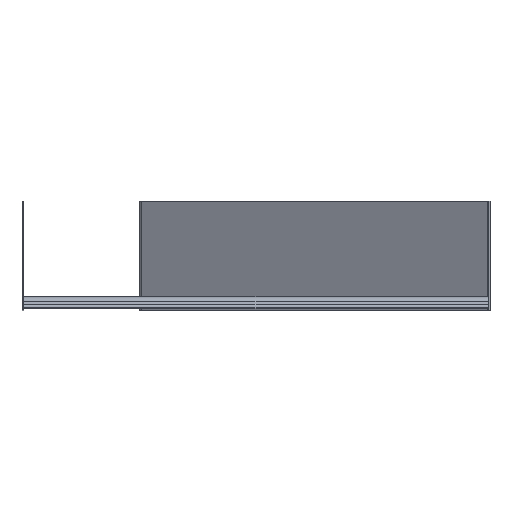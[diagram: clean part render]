
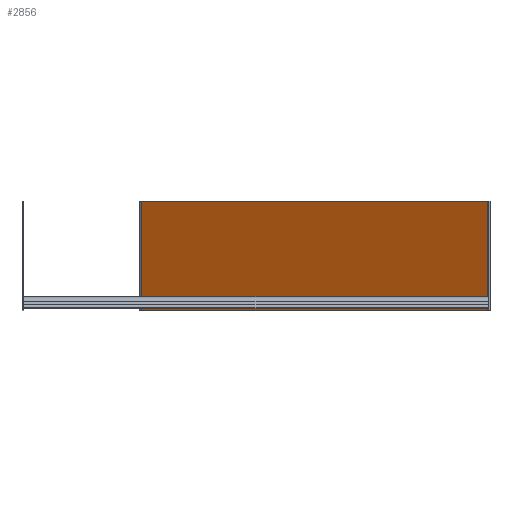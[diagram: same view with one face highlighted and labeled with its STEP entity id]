
A CAD part, top view. The second image highlights one B-rep face of the part: STEP entity #2856.
In plain terms, the highlighted planar face has unit normal (-0.528, 0, 0.849).
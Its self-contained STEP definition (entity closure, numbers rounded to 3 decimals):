
#409 = ORIENTED_EDGE ( 'NONE', *, *, #2300, .T. ) ;
#416 = CARTESIAN_POINT ( 'NONE',  ( 76.651, 0., -278.973 ) ) ;
#1124 = DIRECTION ( 'NONE',  ( 0., 1., 0. ) ) ;
#1387 = LINE ( 'NONE', #4392, #8739 ) ;
#1856 = LINE ( 'NONE', #8677, #7986 ) ;
#1936 = EDGE_CURVE ( 'NONE', #4948, #5570, #9723, .T. ) ;
#2300 = EDGE_CURVE ( 'NONE', #4948, #6910, #1387, .T. ) ;
#2836 = PLANE ( 'NONE',  #4739 ) ;
#2856 = ADVANCED_FACE ( 'NONE', ( #4530 ), #2836, .T. ) ;
#3033 = CARTESIAN_POINT ( 'NONE',  ( 525., 140., 0. ) ) ;
#4392 = CARTESIAN_POINT ( 'NONE',  ( 524.292, 0., -0.44 ) ) ;
#4530 = FACE_OUTER_BOUND ( 'NONE', #6383, .T. ) ;
#4565 = VECTOR ( 'NONE', #5214, 1000. ) ;
#4739 = AXIS2_PLACEMENT_3D ( 'NONE', #3033, #9042, #9099 ) ;
#4741 = EDGE_CURVE ( 'NONE', #5570, #6740, #6578, .T. ) ;
#4948 = VERTEX_POINT ( 'NONE', #5171 ) ;
#4985 = ORIENTED_EDGE ( 'NONE', *, *, #1936, .F. ) ;
#5167 = CARTESIAN_POINT ( 'NONE',  ( 525., 0., 0. ) ) ;
#5171 = CARTESIAN_POINT ( 'NONE',  ( 524.292, 0., -0.44 ) ) ;
#5183 = EDGE_CURVE ( 'NONE', #6910, #6740, #1856, .T. ) ;
#5214 = DIRECTION ( 'NONE',  ( -0.849, 0., -0.528 ) ) ;
#5570 = VERTEX_POINT ( 'NONE', #8761 ) ;
#5733 = ORIENTED_EDGE ( 'NONE', *, *, #5183, .T. ) ;
#6383 = EDGE_LOOP ( 'NONE', ( #8738, #4985, #409, #5733 ) ) ;
#6578 = LINE ( 'NONE', #416, #8134 ) ;
#6740 = VERTEX_POINT ( 'NONE', #9509 ) ;
#6910 = VERTEX_POINT ( 'NONE', #9123 ) ;
#7223 = DIRECTION ( 'NONE',  ( -0.849, 0., -0.528 ) ) ;
#7986 = VECTOR ( 'NONE', #7223, 1000. ) ;
#8134 = VECTOR ( 'NONE', #1124, 1000. ) ;
#8166 = DIRECTION ( 'NONE',  ( 0., 1., 0. ) ) ;
#8677 = CARTESIAN_POINT ( 'NONE',  ( 525., 140., 0. ) ) ;
#8738 = ORIENTED_EDGE ( 'NONE', *, *, #4741, .F. ) ;
#8739 = VECTOR ( 'NONE', #8166, 1000. ) ;
#8761 = CARTESIAN_POINT ( 'NONE',  ( 76.651, 0., -278.973 ) ) ;
#9042 = DIRECTION ( 'NONE',  ( -0.528, 0., 0.849 ) ) ;
#9099 = DIRECTION ( 'NONE',  ( 0.849, 0., 0.528 ) ) ;
#9123 = CARTESIAN_POINT ( 'NONE',  ( 524.292, 140., -0.44 ) ) ;
#9509 = CARTESIAN_POINT ( 'NONE',  ( 76.651, 140., -278.973 ) ) ;
#9723 = LINE ( 'NONE', #5167, #4565 ) ;
